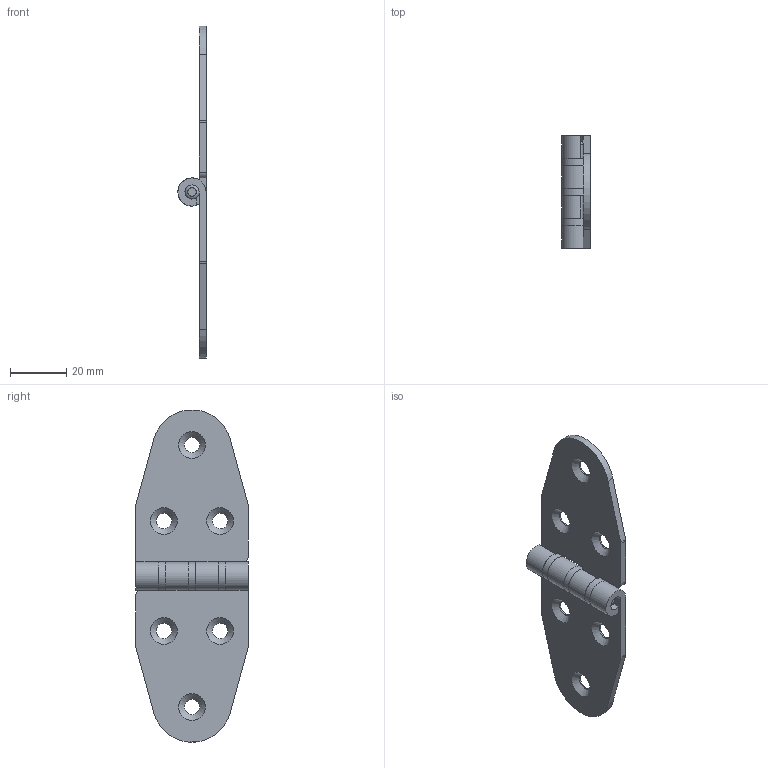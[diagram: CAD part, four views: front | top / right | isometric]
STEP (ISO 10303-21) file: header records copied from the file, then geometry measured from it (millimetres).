
FILE_DESCRIPTION(/* description */ (''),/* implementation_level */ '2;1');
FILE_NAME(/* name */ '\\Nas\db20\HG40118-25\DR_HG40118-25.stp',/* time_stamp */ '2020-09-17T14:33:15+09:00',/* author */ ('user'),/* organization */ (''),/* preprocessor_version */ 'ST-DEVELOPER v15.6',/* originating_system */ 'Autodesk Inventor 2015',/* authorisation */ '');
FILE_SCHEMA (('AUTOMOTIVE_DESIGN { 1 0 10303 214 3 1 1 }'));
Length unit declared in the file: millimetre
Products named in the file (4): 부품2; 기둥; 와샤; DR_HG40118-25
Bounding box: 10 x 40 x 117.89 mm (x, y, z)
Volume: 11489.7 mm3; surface area: 11268.2 mm2
Topology: 6 solids, 6 shells, 71 faces, 175 edges, 116 vertices
Faces by surface type: plane 34, cylinder 29, cone 6, torus 2
Full cylindrical faces by diameter (mm): 5 x4, 5.5 x6, 10 x3
Entity records: 1127 total; most frequent: DIRECTION 199, CARTESIAN_POINT 175, ORIENTED_EDGE 148, AXIS2_PLACEMENT_3D 79, EDGE_CURVE 74, EDGE_LOOP 55, VERTEX_POINT 55, LINE 41
